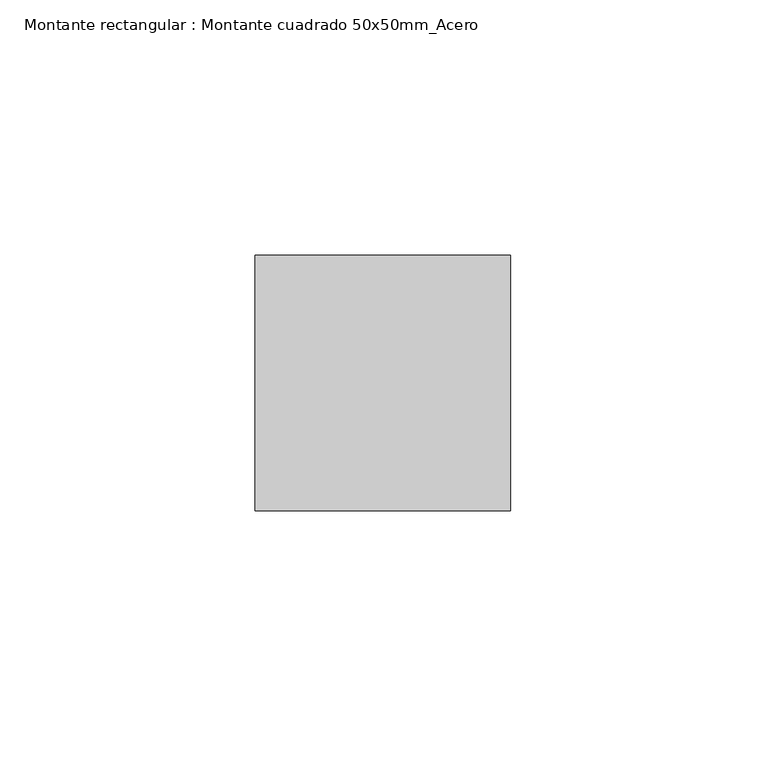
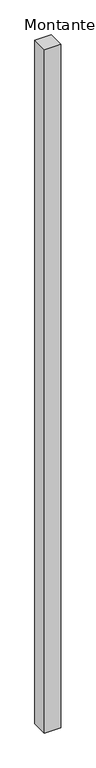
"""IFC4 building model written with IfcOpenShell, lengths in millimetres: member geometry, Montante rectangular : Montante cuadrado 50x50mm_Acero."""

from ifc_helpers import new_model, si_unit, frame, origin, place, context, project, spatial, polyline, outline, extrude, source, transform, mapped, element, save


def montante_rectangular_montante_cuadrado_50x50mm_acero_c7423b8e(model_context):
    return source(origin(), model_context, "Body", "SweptSolid", [
        extrude(outline(polyline([(0.0, 0.0), (-50.0, 0.0), (-50.0, 50.0), (0.0, 50.0), (0.0, 0.0)])), frame((0.0, 0.0, -2200.0), z_axis=(0.0, 0.0, 1.0), x_axis=(1.0, 0.0, 0.0)), (0.0, 0.0, 1.0), 2200.0),
    ])


if __name__ == "__main__":
    model = new_model("IFC4")
    model_context = context("Model", 3, world=origin())
    ifc_project = project(units=[si_unit("LENGTHUNIT", "METRE", prefix="MILLI")], contexts=[model_context])
    site = spatial("IfcSite", under=ifc_project)
    building = spatial("IfcBuilding", under=site)
    placement = place(None, origin())
    montante_rectangular_montante_cuadrado_50x50mm_acero_shape = montante_rectangular_montante_cuadrado_50x50mm_acero_c7423b8e(model_context)
    element("IfcMember", 1, ObjectType="Montante rectangular : Montante cuadrado 50x50mm_Acero", at=placement, inside=building, context=model_context, shape_type="MappedRepresentation", body=[
        mapped(montante_rectangular_montante_cuadrado_50x50mm_acero_shape, transform((0.0, 0.0, 0.0), x_axis=(1.0, 0.0, 0.0), y_axis=(0.0, 1.0, 0.0), z_axis=(0.0, 0.0, 1.0))),
    ])
    save(model, "model.ifc")
